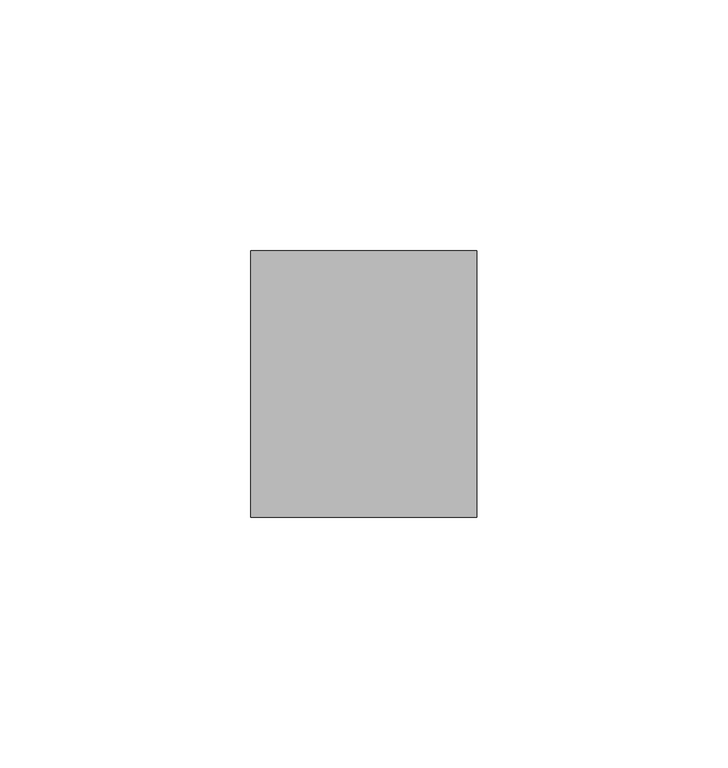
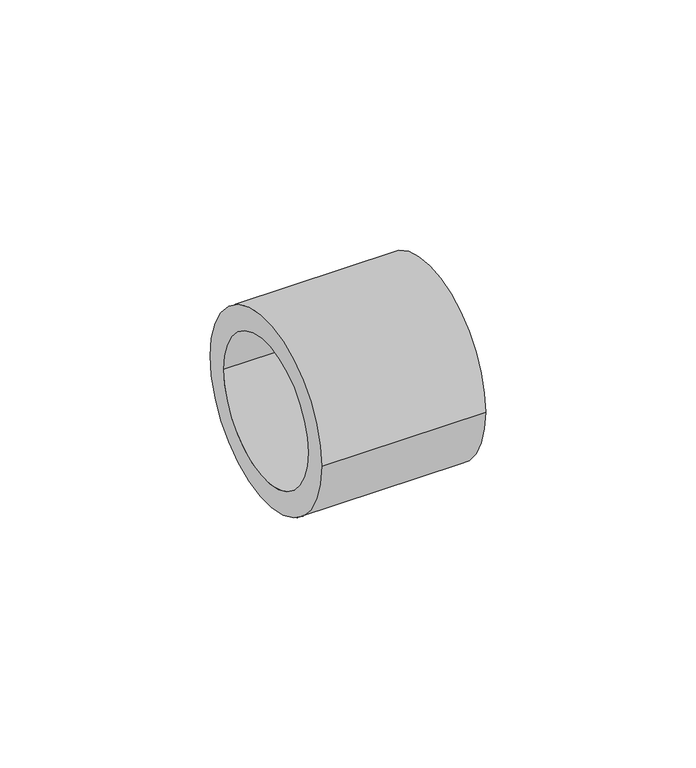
"""IFC4 building model written with IfcOpenShell, lengths in millimetres: pipe fitting geometry, 18_Муфта полипропиленовая : Белый цвет."""

from ifc_helpers import new_model, si_unit, frame, origin, place, context, project, spatial, polyline, circle_curve, source, transform, mapped, element, save
from ifc_brep_helpers import plane_surface, cylinder_surface, revolved_surface, advanced_brep


def pipe_fitting_0604c5e5(model_context):
    return source(origin(), model_context, "Body", "AdvancedBrep", [
        advanced_brep(
        [(-22.5, -26.5, 0.0), (-22.5, 26.5, 0.0), (-22.5, -20.0, 0.0), (-22.5, 20.0, 0.0), (22.5, -26.5, 0.0), (22.5, 26.5, 0.0), (22.5, 20.0, 0.0), (22.5, -20.0, 0.0), (2.0, -20.0, 0.0), (2.0, 20.0, 0.0), (2.0, 18.5, 0.0), (2.0, -18.5, 0.0), (-2.0, -20.0, 0.0), (-2.0, 20.0, 0.0), (-2.0, -18.5, 0.0), (-2.0, 18.5, 0.0)],
        [
            (0, 1, circle_curve(frame((-22.5, 0.0, 0.0), z_axis=(-1.0, 0.0, 0.0), x_axis=(0.0, 1.0, 0.0)), 26.5)),
            (1, 0, circle_curve(frame((-22.5, 0.0, 0.0), z_axis=(-1.0, 0.0, 0.0), x_axis=(0.0, 1.0, 0.0)), 26.5)),
            (2, 3, circle_curve(frame((-22.5, 0.0, 0.0), z_axis=(1.0, 0.0, 0.0), x_axis=(0.0, 1.0, 0.0)), 20.0)),
            (3, 2, circle_curve(frame((-22.5, 0.0, 0.0), z_axis=(1.0, 0.0, 0.0), x_axis=(0.0, 1.0, 0.0)), 20.0)),
            (4, 5, circle_curve(frame((22.5, 0.0, 0.0), z_axis=(1.0, 0.0, 0.0), x_axis=(0.0, 1.0, 0.0)), 26.5)),
            (5, 4, circle_curve(frame((22.5, 0.0, 0.0), z_axis=(1.0, 0.0, 0.0), x_axis=(0.0, 1.0, 0.0)), 26.5)),
            (6, 7, circle_curve(frame((22.5, 0.0, 0.0), z_axis=(-1.0, 0.0, 0.0), x_axis=(0.0, 1.0, 0.0)), 20.0)),
            (7, 6, circle_curve(frame((22.5, 0.0, 0.0), z_axis=(-1.0, 0.0, 0.0), x_axis=(0.0, 1.0, 0.0)), 20.0)),
            (0, 4),
            (5, 1),
            (8, 9, circle_curve(frame((2.0, 0.0, 0.0), z_axis=(1.0, 0.0, 0.0), x_axis=(0.0, 1.0, 0.0)), 20.0)),
            (9, 8, circle_curve(frame((2.0, 0.0, 0.0), z_axis=(1.0, 0.0, 0.0), x_axis=(0.0, 1.0, 0.0)), 20.0)),
            (10, 11, circle_curve(frame((2.0, 0.0, 0.0), z_axis=(-1.0, 0.0, 0.0), x_axis=(0.0, 1.0, 0.0)), 18.5)),
            (11, 10, circle_curve(frame((2.0, 0.0, 0.0), z_axis=(-1.0, 0.0, 0.0), x_axis=(0.0, 1.0, 0.0)), 18.5)),
            (8, 7),
            (6, 9),
            (12, 13, circle_curve(frame((-2.0, 0.0, 0.0), z_axis=(-1.0, 0.0, 0.0), x_axis=(0.0, 1.0, 0.0)), 20.0)),
            (13, 12, circle_curve(frame((-2.0, 0.0, 0.0), z_axis=(-1.0, 0.0, 0.0), x_axis=(0.0, 1.0, 0.0)), 20.0)),
            (14, 15, circle_curve(frame((-2.0, 0.0, 0.0), z_axis=(1.0, 0.0, 0.0), x_axis=(0.0, 1.0, 0.0)), 18.5)),
            (15, 14, circle_curve(frame((-2.0, 0.0, 0.0), z_axis=(1.0, 0.0, 0.0), x_axis=(0.0, 1.0, 0.0)), 18.5)),
            (13, 3),
            (2, 12),
            (10, 15),
            (14, 11),
        ],
        [
            plane_surface(frame((-22.5, 0.0, 0.0), z_axis=(-1.0, 0.0, 0.0), x_axis=(0.0, 0.0, 1.0))),
            plane_surface(frame((22.5, 0.0, 0.0), z_axis=(1.0, 0.0, 0.0), x_axis=(0.0, 0.0, 1.0))),
            cylinder_surface(frame((-22.5, 0.0, 0.0), z_axis=(-1.0, 0.0, 0.0), x_axis=(0.0, 1.0, 0.0)), 26.5),
            plane_surface(frame((2.0, 20.0, 0.0), z_axis=(1.0, 0.0, 0.0), x_axis=(0.0, 0.0, -1.0))),
            revolved_surface(polyline([(22.5, 20.0, 0.0), (2.0, 20.0, 0.0)]), (2.0, 0.0, 0.0), (1.0, 0.0, 0.0)),
            plane_surface(frame((-2.0, 20.0, 0.0), z_axis=(-1.0, 0.0, 0.0), x_axis=(0.0, 0.0, 1.0))),
            revolved_surface(polyline([(-22.5, 20.0, 0.0), (-2.0, 20.0, 0.0)]), (-2.0, 0.0, 0.0), (-1.0, 0.0, 0.0)),
            revolved_surface(polyline([(2.0, 18.5, 0.0), (-2.0, 18.5, 0.0)]), (-2.0, 0.0, 0.0), (1.0, 0.0, 0.0)),
        ],
        [
            (0, [[1, 2], [3, 4]]),
            (1, [[5, 6], [7, 8]]),
            (2, [[-1, 9, -6, 10]]),
            (2, [[-2, -10, -5, -9]]),
            (3, [[11, 12], [13, 14]]),
            (4, [[-11, 15, -7, 16]]),
            (4, [[-12, -16, -8, -15]]),
            (5, [[17, 18], [19, 20]]),
            (6, [[-18, 21, -3, 22]]),
            (6, [[-17, -22, -4, -21]]),
            (7, [[23, -19, 24, -13]]),
            (7, [[-23, -14, -24, -20]]),
        ],
    ),
    ])


if __name__ == "__main__":
    model = new_model("IFC4")
    model_context = context("Model", 3, world=origin())
    ifc_project = project(units=[si_unit("LENGTHUNIT", "METRE", prefix="MILLI")], contexts=[model_context])
    site = spatial("IfcSite", under=ifc_project)
    building = spatial("IfcBuilding", under=site)
    placement = place(None, origin())
    pipe_fitting_shape = pipe_fitting_0604c5e5(model_context)
    element("IfcPipeFitting", 1, ObjectType="18_Муфта полипропиленовая : Белый цвет", at=placement, inside=building, context=model_context, shape_type="MappedRepresentation", body=[
        mapped(pipe_fitting_shape, transform((0.0, 0.0, 0.0), x_axis=(1.0, 0.0, 0.0), y_axis=(0.0, 1.0, 0.0), z_axis=(0.0, 0.0, 1.0))),
    ])
    save(model, "model.ifc")
